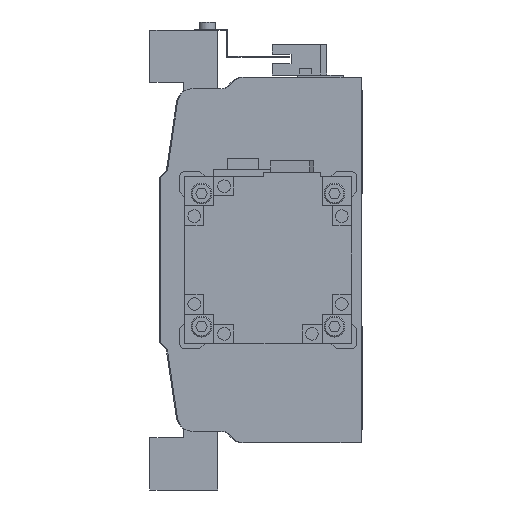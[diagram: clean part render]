
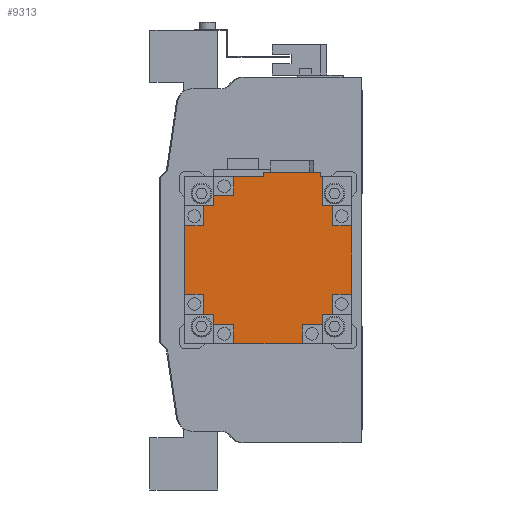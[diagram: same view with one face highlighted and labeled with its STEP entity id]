
A CAD part, left-side view. The second image highlights one B-rep face of the part: STEP entity #9313.
In plain terms, the highlighted planar face has unit normal (-1, 0, 0) as drawn and (0, 1, 0) by its records, which use the part's own axes.
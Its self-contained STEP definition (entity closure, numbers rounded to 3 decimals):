
#148=PLANE('',#9982);
#654=LINE('',#13786,#1705);
#663=LINE('',#13806,#1714);
#669=LINE('',#13818,#1720);
#672=LINE('',#13824,#1723);
#673=LINE('',#13827,#1724);
#674=LINE('',#13829,#1725);
#675=LINE('',#13831,#1726);
#676=LINE('',#13833,#1727);
#677=LINE('',#13835,#1728);
#678=LINE('',#13837,#1729);
#679=LINE('',#13839,#1730);
#680=LINE('',#13841,#1731);
#681=LINE('',#13843,#1732);
#682=LINE('',#13845,#1733);
#683=LINE('',#13847,#1734);
#684=LINE('',#13849,#1735);
#685=LINE('',#13851,#1736);
#686=LINE('',#13853,#1737);
#687=LINE('',#13855,#1738);
#688=LINE('',#13857,#1739);
#689=LINE('',#13859,#1740);
#690=LINE('',#13861,#1741);
#691=LINE('',#13863,#1742);
#692=LINE('',#13865,#1743);
#693=LINE('',#13866,#1744);
#694=LINE('',#13867,#1745);
#695=LINE('',#13868,#1746);
#696=LINE('',#13870,#1747);
#697=LINE('',#13872,#1748);
#698=LINE('',#13874,#1749);
#1705=VECTOR('',#11101,1000.);
#1714=VECTOR('',#11112,1000.);
#1720=VECTOR('',#11118,1000.);
#1723=VECTOR('',#11123,1000.);
#1724=VECTOR('',#11124,1000.);
#1725=VECTOR('',#11125,1000.);
#1726=VECTOR('',#11126,1000.);
#1727=VECTOR('',#11127,1000.);
#1728=VECTOR('',#11128,1000.);
#1729=VECTOR('',#11129,1000.);
#1730=VECTOR('',#11130,1000.);
#1731=VECTOR('',#11131,1000.);
#1732=VECTOR('',#11132,1000.);
#1733=VECTOR('',#11133,1000.);
#1734=VECTOR('',#11134,1000.);
#1735=VECTOR('',#11135,1000.);
#1736=VECTOR('',#11136,1000.);
#1737=VECTOR('',#11137,1000.);
#1738=VECTOR('',#11138,1000.);
#1739=VECTOR('',#11139,1000.);
#1740=VECTOR('',#11140,1000.);
#1741=VECTOR('',#11141,1000.);
#1742=VECTOR('',#11142,1000.);
#1743=VECTOR('',#11143,1000.);
#1744=VECTOR('',#11144,1000.);
#1745=VECTOR('',#11145,1000.);
#1746=VECTOR('',#11146,1000.);
#1747=VECTOR('',#11147,1000.);
#1748=VECTOR('',#11148,1000.);
#1749=VECTOR('',#11149,1000.);
#3043=ORIENTED_EDGE('',*,*,#5474,.T.);
#3044=ORIENTED_EDGE('',*,*,#5475,.T.);
#3045=ORIENTED_EDGE('',*,*,#5476,.T.);
#3046=ORIENTED_EDGE('',*,*,#5477,.T.);
#3047=ORIENTED_EDGE('',*,*,#5478,.T.);
#3048=ORIENTED_EDGE('',*,*,#5479,.F.);
#3049=ORIENTED_EDGE('',*,*,#5480,.F.);
#3050=ORIENTED_EDGE('',*,*,#5481,.T.);
#3051=ORIENTED_EDGE('',*,*,#5482,.T.);
#3052=ORIENTED_EDGE('',*,*,#5483,.T.);
#3053=ORIENTED_EDGE('',*,*,#5484,.T.);
#3054=ORIENTED_EDGE('',*,*,#5485,.T.);
#3055=ORIENTED_EDGE('',*,*,#5486,.F.);
#3056=ORIENTED_EDGE('',*,*,#5487,.F.);
#3057=ORIENTED_EDGE('',*,*,#5488,.T.);
#3058=ORIENTED_EDGE('',*,*,#5489,.T.);
#3059=ORIENTED_EDGE('',*,*,#5490,.T.);
#3060=ORIENTED_EDGE('',*,*,#5491,.T.);
#3061=ORIENTED_EDGE('',*,*,#5492,.T.);
#3062=ORIENTED_EDGE('',*,*,#5493,.F.);
#3063=ORIENTED_EDGE('',*,*,#5494,.F.);
#3064=ORIENTED_EDGE('',*,*,#5465,.T.);
#3065=ORIENTED_EDGE('',*,*,#5495,.F.);
#3066=ORIENTED_EDGE('',*,*,#5456,.F.);
#3067=ORIENTED_EDGE('',*,*,#5496,.T.);
#3068=ORIENTED_EDGE('',*,*,#5471,.T.);
#3069=ORIENTED_EDGE('',*,*,#5497,.T.);
#3070=ORIENTED_EDGE('',*,*,#5498,.T.);
#3071=ORIENTED_EDGE('',*,*,#5499,.F.);
#3072=ORIENTED_EDGE('',*,*,#5500,.F.);
#5456=EDGE_CURVE('',#6712,#6713,#654,.T.);
#5465=EDGE_CURVE('',#6722,#6720,#663,.T.);
#5471=EDGE_CURVE('',#6728,#6727,#669,.T.);
#5474=EDGE_CURVE('',#6730,#6731,#672,.T.);
#5475=EDGE_CURVE('',#6731,#6732,#673,.T.);
#5476=EDGE_CURVE('',#6732,#6733,#674,.T.);
#5477=EDGE_CURVE('',#6733,#6734,#675,.T.);
#5478=EDGE_CURVE('',#6734,#6735,#676,.T.);
#5479=EDGE_CURVE('',#6736,#6735,#677,.T.);
#5480=EDGE_CURVE('',#6737,#6736,#678,.T.);
#5481=EDGE_CURVE('',#6737,#6738,#679,.T.);
#5482=EDGE_CURVE('',#6738,#6739,#680,.T.);
#5483=EDGE_CURVE('',#6739,#6740,#681,.T.);
#5484=EDGE_CURVE('',#6740,#6741,#682,.T.);
#5485=EDGE_CURVE('',#6741,#6742,#683,.T.);
#5486=EDGE_CURVE('',#6743,#6742,#684,.T.);
#5487=EDGE_CURVE('',#6744,#6743,#685,.T.);
#5488=EDGE_CURVE('',#6744,#6745,#686,.T.);
#5489=EDGE_CURVE('',#6745,#6746,#687,.T.);
#5490=EDGE_CURVE('',#6746,#6747,#688,.T.);
#5491=EDGE_CURVE('',#6747,#6748,#689,.T.);
#5492=EDGE_CURVE('',#6748,#6749,#690,.T.);
#5493=EDGE_CURVE('',#6750,#6749,#691,.T.);
#5494=EDGE_CURVE('',#6722,#6750,#692,.T.);
#5495=EDGE_CURVE('',#6713,#6720,#693,.T.);
#5496=EDGE_CURVE('',#6712,#6728,#694,.T.);
#5497=EDGE_CURVE('',#6727,#6751,#695,.T.);
#5498=EDGE_CURVE('',#6751,#6752,#696,.T.);
#5499=EDGE_CURVE('',#6753,#6752,#697,.T.);
#5500=EDGE_CURVE('',#6730,#6753,#698,.T.);
#6712=VERTEX_POINT('',#13787);
#6713=VERTEX_POINT('',#13788);
#6720=VERTEX_POINT('',#13804);
#6722=VERTEX_POINT('',#13807);
#6727=VERTEX_POINT('',#13817);
#6728=VERTEX_POINT('',#13819);
#6730=VERTEX_POINT('',#13825);
#6731=VERTEX_POINT('',#13826);
#6732=VERTEX_POINT('',#13828);
#6733=VERTEX_POINT('',#13830);
#6734=VERTEX_POINT('',#13832);
#6735=VERTEX_POINT('',#13834);
#6736=VERTEX_POINT('',#13836);
#6737=VERTEX_POINT('',#13838);
#6738=VERTEX_POINT('',#13840);
#6739=VERTEX_POINT('',#13842);
#6740=VERTEX_POINT('',#13844);
#6741=VERTEX_POINT('',#13846);
#6742=VERTEX_POINT('',#13848);
#6743=VERTEX_POINT('',#13850);
#6744=VERTEX_POINT('',#13852);
#6745=VERTEX_POINT('',#13854);
#6746=VERTEX_POINT('',#13856);
#6747=VERTEX_POINT('',#13858);
#6748=VERTEX_POINT('',#13860);
#6749=VERTEX_POINT('',#13862);
#6750=VERTEX_POINT('',#13864);
#6751=VERTEX_POINT('',#13869);
#6752=VERTEX_POINT('',#13871);
#6753=VERTEX_POINT('',#13873);
#7837=EDGE_LOOP('',(#3043,#3044,#3045,#3046,#3047,#3048,#3049,#3050,#3051,
#3052,#3053,#3054,#3055,#3056,#3057,#3058,#3059,#3060,#3061,#3062,#3063,
#3064,#3065,#3066,#3067,#3068,#3069,#3070,#3071,#3072));
#8526=FACE_BOUND('',#7837,.T.);
#9313=ADVANCED_FACE('',(#8526),#148,.T.);
#9982=AXIS2_PLACEMENT_3D('',#13823,#11121,#11122);
#11101=DIRECTION('',(0.,0.,1.));
#11112=DIRECTION('',(0.,0.,-1.));
#11118=DIRECTION('',(0.,0.,-1.));
#11121=DIRECTION('',(0.,1.,0.));
#11122=DIRECTION('',(0.,0.,1.));
#11123=DIRECTION('',(-1.,0.,0.));
#11124=DIRECTION('',(0.,0.,-1.));
#11125=DIRECTION('',(-1.,0.,0.));
#11126=DIRECTION('',(0.,0.,1.));
#11127=DIRECTION('',(-1.,0.,0.));
#11128=DIRECTION('',(0.,0.,-1.));
#11129=DIRECTION('',(1.,0.,0.));
#11130=DIRECTION('',(0.,0.,1.));
#11131=DIRECTION('',(-1.,0.,0.));
#11132=DIRECTION('',(0.,0.,1.));
#11133=DIRECTION('',(1.,0.,0.));
#11134=DIRECTION('',(0.,0.,1.));
#11135=DIRECTION('',(-1.,0.,0.));
#11136=DIRECTION('',(0.,0.,-1.));
#11137=DIRECTION('',(1.,0.,0.));
#11138=DIRECTION('',(0.,0.,1.));
#11139=DIRECTION('',(1.,0.,0.));
#11140=DIRECTION('',(0.,0.,-1.));
#11141=DIRECTION('',(1.,0.,0.));
#11142=DIRECTION('',(0.,0.,1.));
#11143=DIRECTION('',(-1.,0.,0.));
#11144=DIRECTION('',(-1.,0.,0.));
#11145=DIRECTION('',(-1.,0.,0.));
#11146=DIRECTION('',(-1.,0.,0.));
#11147=DIRECTION('',(0.,0.,-1.));
#11148=DIRECTION('',(1.,0.,0.));
#11149=DIRECTION('',(0.,0.,1.));
#13786=CARTESIAN_POINT('',(42.,138.3,-2.2));
#13787=CARTESIAN_POINT('',(42.,138.3,-2.2));
#13788=CARTESIAN_POINT('',(42.,138.3,25.2));
#13804=CARTESIAN_POINT('',(39.95,138.3,25.2));
#13806=CARTESIAN_POINT('',(39.95,138.3,39.95));
#13807=CARTESIAN_POINT('',(39.95,138.3,25.95));
#13817=CARTESIAN_POINT('',(39.95,138.3,-16.35));
#13818=CARTESIAN_POINT('',(39.95,138.3,39.95));
#13819=CARTESIAN_POINT('',(39.95,138.3,-2.2));
#13823=CARTESIAN_POINT('',(0.,138.3,0.));
#13824=CARTESIAN_POINT('',(0.,138.3,-30.95));
#13825=CARTESIAN_POINT('',(25.95,138.3,-30.95));
#13826=CARTESIAN_POINT('',(16.35,138.3,-30.95));
#13827=CARTESIAN_POINT('',(16.35,138.3,0.));
#13828=CARTESIAN_POINT('',(16.35,138.3,-39.95));
#13829=CARTESIAN_POINT('',(39.95,138.3,-39.95));
#13830=CARTESIAN_POINT('',(-16.35,138.3,-39.95));
#13831=CARTESIAN_POINT('',(-16.35,138.3,0.));
#13832=CARTESIAN_POINT('',(-16.35,138.3,-30.95));
#13833=CARTESIAN_POINT('',(0.,138.3,-30.95));
#13834=CARTESIAN_POINT('',(-25.95,138.3,-30.95));
#13835=CARTESIAN_POINT('',(-25.95,138.3,0.));
#13836=CARTESIAN_POINT('',(-25.95,138.3,-25.95));
#13837=CARTESIAN_POINT('',(0.,138.3,-25.95));
#13838=CARTESIAN_POINT('',(-30.95,138.3,-25.95));
#13839=CARTESIAN_POINT('',(-30.95,138.3,0.));
#13840=CARTESIAN_POINT('',(-30.95,138.3,-16.35));
#13841=CARTESIAN_POINT('',(0.,138.3,-16.35));
#13842=CARTESIAN_POINT('',(-39.95,138.3,-16.35));
#13843=CARTESIAN_POINT('',(-39.95,138.3,-39.95));
#13844=CARTESIAN_POINT('',(-39.95,138.3,16.35));
#13845=CARTESIAN_POINT('',(0.,138.3,16.35));
#13846=CARTESIAN_POINT('',(-30.95,138.3,16.35));
#13847=CARTESIAN_POINT('',(-30.95,138.3,0.));
#13848=CARTESIAN_POINT('',(-30.95,138.3,25.95));
#13849=CARTESIAN_POINT('',(0.,138.3,25.95));
#13850=CARTESIAN_POINT('',(-25.95,138.3,25.95));
#13851=CARTESIAN_POINT('',(-25.95,138.3,0.));
#13852=CARTESIAN_POINT('',(-25.95,138.3,30.95));
#13853=CARTESIAN_POINT('',(0.,138.3,30.95));
#13854=CARTESIAN_POINT('',(-16.35,138.3,30.95));
#13855=CARTESIAN_POINT('',(-16.35,138.3,0.));
#13856=CARTESIAN_POINT('',(-16.35,138.3,39.95));
#13857=CARTESIAN_POINT('',(-39.95,138.3,39.95));
#13858=CARTESIAN_POINT('',(16.35,138.3,39.95));
#13859=CARTESIAN_POINT('',(16.35,138.3,0.));
#13860=CARTESIAN_POINT('',(16.35,138.3,30.95));
#13861=CARTESIAN_POINT('',(0.,138.3,30.95));
#13862=CARTESIAN_POINT('',(25.95,138.3,30.95));
#13863=CARTESIAN_POINT('',(25.95,138.3,0.));
#13864=CARTESIAN_POINT('',(25.95,138.3,25.95));
#13865=CARTESIAN_POINT('',(0.,138.3,25.95));
#13866=CARTESIAN_POINT('',(42.,138.3,25.2));
#13867=CARTESIAN_POINT('',(42.,138.3,-2.2));
#13868=CARTESIAN_POINT('',(0.,138.3,-16.35));
#13869=CARTESIAN_POINT('',(30.95,138.3,-16.35));
#13870=CARTESIAN_POINT('',(30.95,138.3,0.));
#13871=CARTESIAN_POINT('',(30.95,138.3,-25.95));
#13872=CARTESIAN_POINT('',(0.,138.3,-25.95));
#13873=CARTESIAN_POINT('',(25.95,138.3,-25.95));
#13874=CARTESIAN_POINT('',(25.95,138.3,0.));
